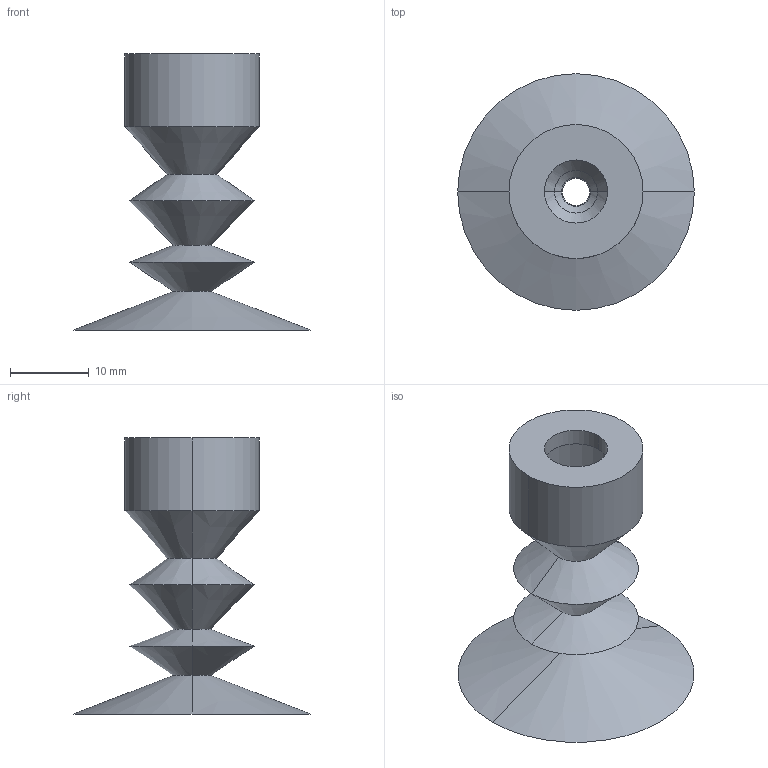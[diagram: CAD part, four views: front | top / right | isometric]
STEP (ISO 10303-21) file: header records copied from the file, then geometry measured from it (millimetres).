
FILE_DESCRIPTION (( 'STEP AP214' ), '1' );
FILE_NAME ('VSH3-M30.STEP', '2019-12-02T08:47:29', ( '微软用户' ), ( '微软中国' ), 'SwSTEP 2.0', 'SolidWorks 2016', '' );
FILE_SCHEMA (( 'AUTOMOTIVE_DESIGN' ));
Length unit declared in the file: millimetre
Products named in the file (1): VSH3-M30
Bounding box: 30 x 30 x 35 mm (x, y, z)
Volume: 1130.5 mm3; surface area: 4929.1 mm2
Topology: 1 solids, 1 shells, 36 faces, 72 edges, 40 vertices
Faces by surface type: cone 24, cylinder 8, plane 4
Entity records: 962 total; most frequent: DIRECTION 186, CARTESIAN_POINT 149, ORIENTED_EDGE 144, AXIS2_PLACEMENT_3D 77, EDGE_CURVE 72, EDGE_LOOP 40, CIRCLE 40, VERTEX_POINT 40
